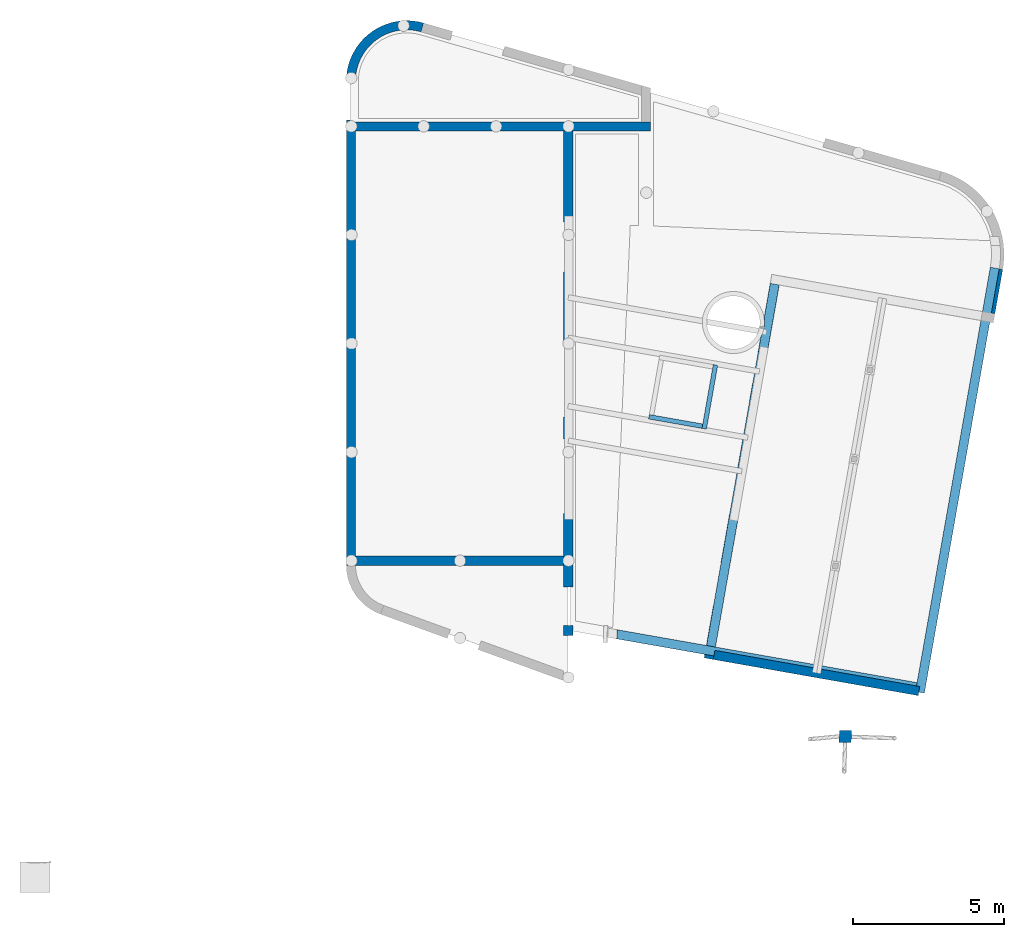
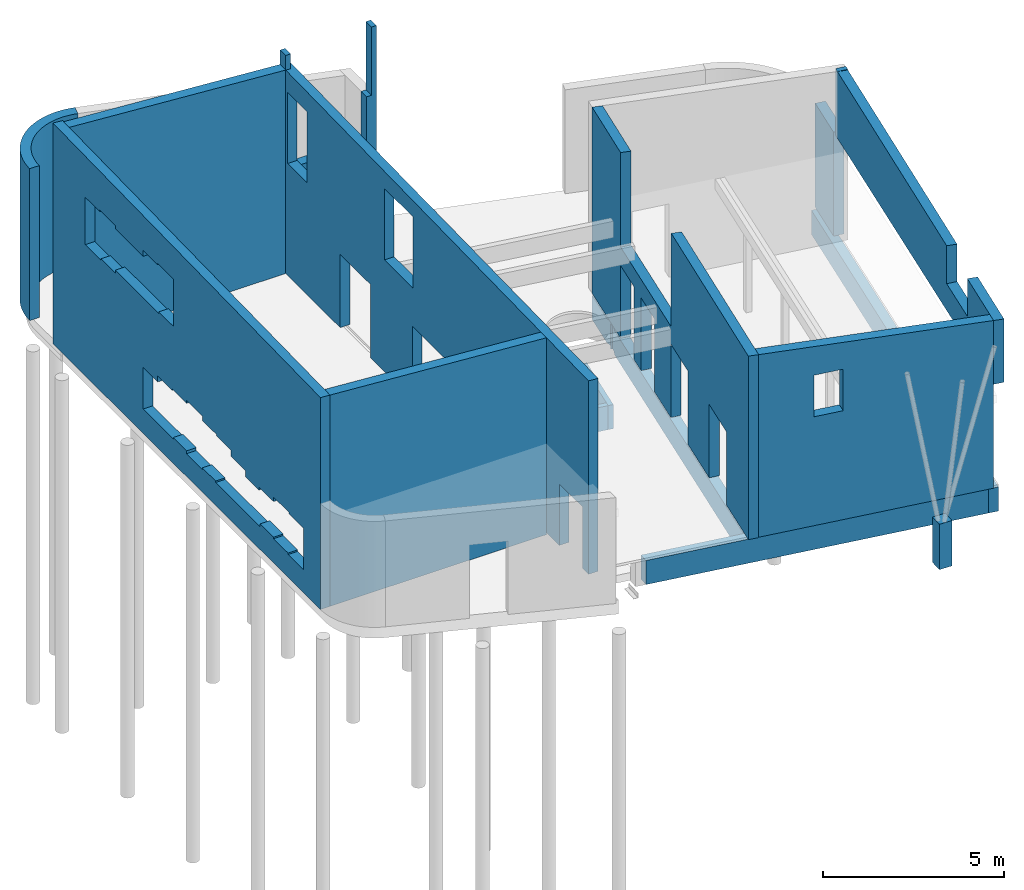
# One storey, part 2 of 3: 14 walls, 19 openings.
"""IFC2X3 building model written with IfcOpenShell, lengths in millimetres."""

from ifc_helpers import new_model, entity, si_unit, converted_unit, derived_unit, direction, frame, frame_2d, origin, place, context, subcontext, project, spatial, polyline, circle_curve, parameter, trimmed, segment, composite_curve, rectangle, outline, extrude, clip, bounded_halfspace, material, layer, layer_set, layer_usage, type_object, element, save


model = new_model("IFC2X3")

# Units and contexts
model_context = context("Model", 3, precision=0.01, world=origin(), true_north=direction((6.12303176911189e-17, 1.0)))
context_of_model = context(None, 3, precision=0.01, world=origin(), true_north=direction((6.12303176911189e-17, 1.0)))
body_context = subcontext(model_context, "Body", "Model", "MODEL_VIEW")
ifc_project = project(units=[si_unit("LENGTHUNIT", "METRE", prefix="MILLI"), si_unit("AREAUNIT", "SQUARE_METRE"), si_unit("VOLUMEUNIT", "CUBIC_METRE"), converted_unit("PLANEANGLEUNIT", "DEGREE", entity("IfcRatioMeasure", 0.0174532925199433), si_unit("PLANEANGLEUNIT", "RADIAN"), dimensions=[0, 0, 0, 0, 0, 0, 0]), si_unit("MASSUNIT", "GRAM", prefix="KILO"), derived_unit("MASSDENSITYUNIT", [(si_unit("MASSUNIT", "GRAM", prefix="KILO"), 1), (si_unit("LENGTHUNIT", "METRE"), -3)]), derived_unit("MOMENTOFINERTIAUNIT", [(si_unit("LENGTHUNIT", "METRE"), 4)]), si_unit("TIMEUNIT", "SECOND"), si_unit("FREQUENCYUNIT", "HERTZ"), si_unit("THERMODYNAMICTEMPERATUREUNIT", "DEGREE_CELSIUS"), derived_unit("THERMALTRANSMITTANCEUNIT", [(si_unit("MASSUNIT", "GRAM", prefix="KILO"), 1), (si_unit("THERMODYNAMICTEMPERATUREUNIT", "KELVIN"), -1), (si_unit("TIMEUNIT", "SECOND"), -3)]), derived_unit("VOLUMETRICFLOWRATEUNIT", [(si_unit("LENGTHUNIT", "METRE"), 3), (si_unit("TIMEUNIT", "SECOND"), -1)]), si_unit("ELECTRICCURRENTUNIT", "AMPERE"), si_unit("ELECTRICVOLTAGEUNIT", "VOLT"), si_unit("POWERUNIT", "WATT"), si_unit("FORCEUNIT", "NEWTON", prefix="KILO"), si_unit("ILLUMINANCEUNIT", "LUX"), si_unit("LUMINOUSFLUXUNIT", "LUMEN"), si_unit("LUMINOUSINTENSITYUNIT", "CANDELA"), derived_unit("USERDEFINED", [(si_unit("MASSUNIT", "GRAM", prefix="KILO"), -1), (si_unit("LENGTHUNIT", "METRE"), -2), (si_unit("TIMEUNIT", "SECOND"), 3), (si_unit("LUMINOUSFLUXUNIT", "LUMEN"), 1)]), derived_unit("LINEARVELOCITYUNIT", [(si_unit("LENGTHUNIT", "METRE"), 1), (si_unit("TIMEUNIT", "SECOND"), -1)]), si_unit("PRESSUREUNIT", "PASCAL"), derived_unit("USERDEFINED", [(si_unit("LENGTHUNIT", "METRE"), -2), (si_unit("MASSUNIT", "GRAM", prefix="KILO"), 1), (si_unit("TIMEUNIT", "SECOND"), -2)]), derived_unit("LINEARFORCEUNIT", [(si_unit("MASSUNIT", "GRAM", prefix="KILO"), 1), (si_unit("LENGTHUNIT", "METRE"), 1), (si_unit("TIMEUNIT", "SECOND"), -2), (si_unit("LENGTHUNIT", "METRE"), -1)]), derived_unit("PLANARFORCEUNIT", [(si_unit("MASSUNIT", "GRAM", prefix="KILO"), 1), (si_unit("LENGTHUNIT", "METRE"), 1), (si_unit("TIMEUNIT", "SECOND"), -2), (si_unit("LENGTHUNIT", "METRE"), -2)])], contexts=[model_context, context_of_model])

# Site, building, storey
site_placement = place(None, origin())
site = spatial("IfcSite", under=ifc_project, at=site_placement, Name="Default", CompositionType="ELEMENT")
building_placement = place(site_placement, origin())
building = spatial("IfcBuilding", under=site, at=building_placement, Name="IFc", CompositionType="ELEMENT")
storey_placement = place(building_placement, frame((0.0, 0.0, -70.0)))
storey = spatial("IfcBuildingStorey", under=building, at=storey_placement, Name="00 begane grond b.k. ruwe vloer", CompositionType="ELEMENT", Elevation=-70.0)

# Wall, opening
ifc_material_1 = material(Name="IMd_underlayment")
ifc_layer_1 = layer(ifc_material_1, 18.0)
ifc_material_2 = material(Name="IMd_hout")
ifc_layer_2 = layer(ifc_material_2, 270.0)
ifc_layer_3 = layer(ifc_material_1, 18.0)
ifc_layer_set_1 = layer_set([ifc_layer_1, ifc_layer_2, ifc_layer_3], Name="Basic Wall:NLRS_28_WA HSB_d=271")
ifc_layer_usage_1 = layer_usage(ifc_layer_set_1, "AXIS2", "NEGATIVE", 153.0)
wall_type_1 = type_object("IfcWallType", Name="Basic Wall:NLRS_28_WA HSB_d=271", PredefinedType="STANDARD", material=ifc_layer_set_1)
wall_1_placement = place(storey_placement, frame((19912.6696056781, 24397.0, 70.0), z_axis=(0.0, 0.0, 1.0), x_axis=(-1.0, 0.0, 0.0)))
wall_1 = element("IfcWallStandardCase", 1, at=wall_1_placement, inside=storey, type_object=wall_type_1, material=ifc_layer_usage_1, Name="Basic Wall:NLRS_28_WA HSB_d=271", ObjectType="Basic Wall:NLRS_28_WA HSB_d=271", context=body_context, shape_type="Clipping", body=[
    clip(extrude(rectangle(XDim=9787.66960567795, YDim=306.0, at=frame_2d((4893.83480283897, -5.25801624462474e-13), x_axis=(-1.0, 0.0))), origin(), (0.0, 0.0, 1.0), 7346.55553547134), bounded_halfspace(frame((2887.66960567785, -153.0, 6861.70889047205), z_axis=(0.0700806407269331, -0.0200951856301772, -0.997338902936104), x_axis=(0.958704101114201, -0.274902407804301, 0.0729048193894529)), True, frame((2887.66960567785, -153.0, 6861.70889047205)), polyline([(0.0, 0.0), (6900.0, 0.0), (6900.0, 306.0), (0.0, 306.0), (0.0, 0.0)]))),
])
opening_1_placement = place(wall_1_placement, origin())
element("IfcOpeningElement", 2, at=opening_1_placement, cuts=wall_1, Name="Basic Wall:NLRS_28_WA HSB_d=271", ObjectType="Opening", context=body_context, shape_type="SweptSolid", body=[
    extrude(outline(polyline([(-1670.11307045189, -4270.0), (911.556535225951, -4270.0), (911.556535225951, 1360.0), (758.556535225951, 1360.0), (758.556535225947, 2910.0), (-1670.1130704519, 2910.0), (-1670.11307045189, -4270.0)])), frame((1064.55653522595, 153.0, 6410.0), z_axis=(0.0, -1.0, 0.0), x_axis=(-1.0, 0.0, 0.0)), (0.0, 0.0, 1.0), 306.0),
])

# Wall, openings
ifc_layer_usage_2 = layer_usage(ifc_layer_set_1, "AXIS2", "NEGATIVE", 153.0)
wall_2_placement = place(storey_placement, frame((17178.0, 5903.98538399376, 70.0), z_axis=(0.0, 0.0, 1.0), x_axis=(0.0, 1.0, 0.0)))
wall_2 = element("IfcWallStandardCase", 3, at=wall_2_placement, inside=storey, type_object=wall_type_1, material=ifc_layer_usage_2, Name="Basic Wall:NLRS_28_WA HSB_d=271", ObjectType="Basic Wall:NLRS_28_WA HSB_d=271", context=body_context, shape_type="Clipping", body=[
    clip(clip(clip(extrude(outline(polyline([(1619.46869295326, -153.0), (18646.0146160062, -153.0), (18646.0146160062, 153.0), (18340.0146160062, 153.0), (4246.01461600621, 153.0), (3940.01461600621, 153.0), (1619.46869295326, 153.0), (1619.46869295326, -153.0)])), origin(), (0.0, 0.0, 1.0), 6861.70889047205), bounded_halfspace(frame((1619.46869295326, -153.0, 6497.14246680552), z_axis=(0.0200951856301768, 0.0700806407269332, -0.997338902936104), x_axis=(0.274902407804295, 0.958704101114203, 0.0729048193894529)), True, frame((1619.46869295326, -153.0, 6497.14246680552)), polyline([(0.0, 0.0), (17026.545923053, 0.0), (17026.545923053, 306.0), (16720.545923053, 306.0), (2626.54592305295, 306.0), (2320.54592305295, 306.0), (0.0, 306.0), (0.0, 0.0)]))), bounded_halfspace(frame((18340.0146160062, 153.0, 3500.0), z_axis=(-1.0, 0.0, 0.0), x_axis=(0.0, -1.0, 0.0)), True, frame((18340.0146160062, 153.0, 3500.0), z_axis=(-1.0, 0.0, 0.0), x_axis=(0.0, -1.0, 0.0)), polyline([(0.0, 0.0), (0.0, -3500.0), (306.0, -3500.0), (306.0, 0.0), (0.0, 0.0)]))), bounded_halfspace(frame((18340.0146160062, -153.0, 3500.0), z_axis=(0.0, 0.0, 1.0), x_axis=(-1.0, 0.0, 0.0)), True, frame((18340.0146160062, -153.0, 3500.0), z_axis=(0.0, 0.0, 1.0), x_axis=(-1.0, 0.0, 0.0)), polyline([(0.0, 0.0), (-306.0, 0.0), (-306.0, -306.0), (0.0, -306.0), (0.0, 0.0)]))),
])
opening_2_placement = place(wall_2_placement, origin())
element("IfcOpeningElement", 4, at=opening_2_placement, cuts=wall_2, Name="Basic Wall:NLRS_28_WA HSB_d=271", ObjectType="Opening", context=body_context, shape_type="SweptSolid", body=[
    extrude(rectangle(XDim=2400.0, YDim=1567.0, at=frame_2d((0.0, 0.0), x_axis=(0.0, 1.0))), frame((12094.6040001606, 153.0, 4970.0), z_axis=(0.0, -1.0, 0.0), x_axis=(-1.0, 0.0, 0.0)), (0.0, 0.0, 1.0), 306.0),
])
opening_3_placement = place(wall_2_placement, origin())
element("IfcOpeningElement", 5, at=opening_3_placement, cuts=wall_2, Name="Basic Wall:NLRS_28_WA HSB_d=271", ObjectType="Opening", context=body_context, shape_type="SweptSolid", body=[
    extrude(rectangle(XDim=2400.00000000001, YDim=1064.0, at=frame_2d((0.0, 0.0), x_axis=(0.0, 1.0))), frame((17702.0146160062, 153.0, 4970.0), z_axis=(0.0, -1.0, 0.0), x_axis=(-1.0, 0.0, 0.0)), (0.0, 0.0, 1.0), 306.0),
])
opening_4_placement = place(wall_2_placement, origin())
element("IfcOpeningElement", 6, at=opening_4_placement, cuts=wall_2, Name="Basic Wall:NLRS_28_WA HSB_d=271", ObjectType="Opening", context=body_context, shape_type="SweptSolid", body=[
    extrude(rectangle(XDim=2070.0, YDim=1280.00000000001, at=frame_2d((0.0, -4.54747350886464e-13), x_axis=(0.0, 1.0))), frame((2584.75540203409, 153.0, 1035.0), z_axis=(0.0, -1.0, 0.0), x_axis=(1.0, 0.0, 0.0)), (0.0, 0.0, 1.0), 306.0),
])
opening_5_placement = place(wall_2_placement, origin())
element("IfcOpeningElement", 7, at=opening_5_placement, cuts=wall_2, Name="Basic Wall:NLRS_28_WA HSB_d=271", ObjectType="Opening", context=body_context, shape_type="SweptSolid", body=[
    extrude(rectangle(XDim=2470.00000000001, YDim=2467.0, at=frame_2d((0.0, 0.0), x_axis=(0.0, 1.0))), frame((6896.01461570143, 153.0, 1235.0), z_axis=(0.0, -1.0, 0.0), x_axis=(1.0, 0.0, 0.0)), (0.0, 0.0, 1.0), 306.0),
])
opening_6_placement = place(wall_2_placement, origin())
element("IfcOpeningElement", 8, at=opening_6_placement, cuts=wall_2, Name="Basic Wall:NLRS_28_WA HSB_d=271", ObjectType="Opening", context=body_context, shape_type="SweptSolid", body=[
    extrude(rectangle(XDim=2470.0, YDim=2467.0, at=frame_2d((0.0, 0.0), x_axis=(0.0, 1.0))), frame((10096.0146157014, 153.0, 1235.0), z_axis=(0.0, -1.0, 0.0), x_axis=(1.0, 0.0, 0.0)), (0.0, 0.0, 1.0), 306.0),
])
opening_7_placement = place(wall_2_placement, origin())
element("IfcOpeningElement", 9, at=opening_7_placement, cuts=wall_2, Name="Basic Wall:NLRS_28_WA HSB_d=271", ObjectType="Opening", context=body_context, shape_type="SweptSolid", body=[
    extrude(rectangle(XDim=2469.99999999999, YDim=1667.00000000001, at=frame_2d((-2.1600499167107e-12, -2.38742359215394e-12), x_axis=(0.0, 1.0))), frame((14496.0146160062, 153.0, 1235.0), z_axis=(0.0, -1.0, 0.0), x_axis=(1.0, 0.0, 0.0)), (0.0, 0.0, 1.0), 306.0),
])
opening_8_placement = place(wall_2_placement, origin())
element("IfcOpeningElement", 10, at=opening_8_placement, cuts=wall_2, Name="Basic Wall:NLRS_28_WA HSB_d=271", ObjectType="Opening", context=body_context, shape_type="SweptSolid", body=[
    extrude(rectangle(XDim=7180.0, YDim=1400.98239480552, at=frame_2d((2.72848410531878e-12, 1.81898940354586e-12), x_axis=(0.0, 1.0))), frame((918.977495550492, 153.0, 7090.0), z_axis=(0.0, -1.0, 0.0), x_axis=(-1.0, 0.0, 0.0)), (0.0, 0.0, 1.0), 306.0),
])
opening_9_placement = place(wall_2_placement, origin())
element("IfcOpeningElement", 11, at=opening_9_placement, cuts=wall_2, Name="Basic Wall:NLRS_28_WA HSB_d=271", ObjectType="Opening", context=body_context, shape_type="SweptSolid", body=[
    extrude(rectangle(XDim=2070.0, YDim=1199.26721811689, at=frame_2d((0.0, 4.54747350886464e-13), x_axis=(0.0, 1.0))), frame((1007.61038852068, 153.0, 1035.0), z_axis=(0.0, -1.0, 0.0), x_axis=(1.0, 0.0, 0.0)), (0.0, 0.0, 1.0), 306.0),
])

# Wall
ifc_layer_usage_3 = layer_usage(ifc_layer_set_1, "AXIS2", "NEGATIVE", 153.0)
wall_3_placement = place(storey_placement, frame((17025.0, 9997.0, 0.0), z_axis=(0.0, 0.0, 1.0), x_axis=(-1.0, 0.0, 0.0)))
element("IfcWallStandardCase", 12, at=wall_3_placement, inside=storey, type_object=wall_type_1, material=ifc_layer_usage_3, Name="Basic Wall:NLRS_28_WA HSB_d=271", ObjectType="Basic Wall:NLRS_28_WA HSB_d=271", context=body_context, shape_type="Clipping", body=[
    clip(extrude(rectangle(XDim=6899.99999999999, YDim=306.0, at=frame_2d((3449.99999999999, 1.70530256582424e-13), x_axis=(-1.0, 0.0))), origin(), (0.0, 0.0, 1.0), 7126.41276432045), bounded_halfspace(frame((0.0, -153.0, 6641.56611932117), z_axis=(0.0700806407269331, -0.0200951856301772, -0.997338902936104), x_axis=(0.958704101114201, -0.274902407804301, 0.0729048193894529)), True, frame((0.0, -153.0, 6641.56611932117)), polyline([(0.0, 0.0), (6900.0, 0.0), (6900.0, 306.0), (0.0, 306.0), (0.0, 0.0)]))),
])

# Wall, openings
ifc_layer_usage_4 = layer_usage(ifc_layer_set_1, "AXIS2", "NEGATIVE", 153.0)
wall_4_placement = place(storey_placement, frame((9972.0, 25897.4538590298, 0.0), z_axis=(0.0, 0.0, 1.0), x_axis=(0.0, -1.0, 0.0)))
wall_4 = element("IfcWallStandardCase", 13, at=wall_4_placement, inside=storey, type_object=wall_type_1, material=ifc_layer_usage_4, Name="Basic Wall:NLRS_28_WA HSB_d=271", ObjectType="Basic Wall:NLRS_28_WA HSB_d=271", context=body_context, shape_type="Clipping", body=[
    clip(extrude(outline(polyline([(1286.08411395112, -153.0), (16053.8255288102, -153.0), (16053.4538590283, 153.0), (15747.4538590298, 153.0), (1653.45385902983, 153.0), (1347.45385902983, 153.0), (1286.08411395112, 153.0), (1286.08411395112, -153.0)])), origin(), (0.0, 0.0, 1.0), 7439.29395710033), bounded_halfspace(frame((1286.08411395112, -153.0, 7439.29395710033), z_axis=(-0.0200951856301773, -0.0700806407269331, -0.997338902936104), x_axis=(-0.274902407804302, -0.958704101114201, 0.0729048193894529)), True, frame((1286.08411395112, -153.0, 7439.29395710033)), polyline([(0.0, 0.0), (14767.7414148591, 0.0), (14767.3697450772, 306.0), (14461.3697450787, 306.0), (367.369745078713, 306.0), (61.3697450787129, 306.0), (0.0, 306.0), (0.0, 0.0)]))),
])
opening_10_placement = place(wall_4_placement, origin())
element("IfcOpeningElement", 14, at=opening_10_placement, cuts=wall_4, Name="Basic Wall:NLRS_28_WA HSB_d=271", ObjectType="Opening", context=body_context, shape_type="SweptSolid", body=[
    extrude(outline(polyline([(-2434.15789473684, -928.947368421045), (-1571.15789473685, -928.947368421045), (-1571.15789473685, -878.947368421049), (-771.157894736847, -878.947368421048), (-771.157894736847, -778.947368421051), (1584.84210526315, -778.947368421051), (1628.84210526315, -778.947368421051), (1628.84210526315, -728.947368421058), (2428.84210526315, -728.947368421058), (2428.84210526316, 871.05263157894), (1565.84210526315, 871.052631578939), (1565.84210526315, 821.052631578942), (765.842105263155, 821.052631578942), (765.842105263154, 621.052631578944), (-771.157894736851, 621.052631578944), (-771.157894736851, 721.052631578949), (-1634.15789473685, 721.052631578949), (-1634.15789473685, 671.052631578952), (-2434.15789473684, 671.052631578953), (-2434.15789473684, -928.947368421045)])), frame((5500.11175376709, 153.0, 5348.94736842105), z_axis=(0.0, -1.0, 0.0), x_axis=(1.0, 0.0, 0.0)), (0.0, 0.0, 1.0), 306.0),
])
opening_11_placement = place(wall_4_placement, origin())
element("IfcOpeningElement", 15, at=opening_11_placement, cuts=wall_4, Name="Basic Wall:NLRS_28_WA HSB_d=271", ObjectType="Opening", context=body_context, shape_type="SweptSolid", body=[
    extrude(outline(polyline([(-842.105263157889, -2872.10526315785), (-842.105263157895, -4535.10526315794), (557.894736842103, -4535.10526315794), (557.894736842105, -3735.10526315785), (757.894736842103, -3735.10526315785), (757.894736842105, -2935.10526315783), (807.894736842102, -2935.10526315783), (807.894736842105, -2135.10526315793), (907.894736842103, -2135.10526315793), (907.894736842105, -1272.10526315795), (757.894736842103, -1272.10526315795), (757.894736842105, -472.105263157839), (707.894736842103, -472.105263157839), (707.894736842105, 327.894736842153), (507.894736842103, 327.894736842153), (507.894736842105, 1127.89473684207), (307.894736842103, 1127.89473684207), (307.894736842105, 1864.89473684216), (407.894736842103, 1864.89473684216), (407.894736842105, 2664.89473684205), (557.894736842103, 2664.89473684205), (557.894736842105, 3527.89473684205), (507.894736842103, 3527.89473684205), (507.894736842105, 4327.89473684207), (-892.105263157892, 4327.89473684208), (-892.105263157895, 3464.89473684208), (-842.105263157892, 3464.89473684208), (-842.105263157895, 2664.89473684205), (-792.105263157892, 2664.89473684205), (-792.105263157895, 1927.89473684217), (-892.105263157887, 1927.89473684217), (-892.105263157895, -535.105263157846), (-842.105263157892, -535.105263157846), (-842.105263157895, -1272.10526315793), (-892.105263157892, -1272.10526315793), (-892.105263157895, -2135.10526315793), (-792.105263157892, -2135.10526315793), (-792.105263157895, -2872.10526315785), (-842.105263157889, -2872.10526315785)])), frame((10801.0591221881, 153.0, 1662.1052631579), z_axis=(0.0, 1.0, 0.0), x_axis=(0.0, 0.0, 1.0)), (0.0, 0.0, -1.0), 306.0),
])
opening_12_placement = place(wall_4_placement, origin())
element("IfcOpeningElement", 16, at=opening_12_placement, cuts=wall_4, Name="Basic Wall:NLRS_28_WA HSB_d=271", ObjectType="Opening", context=body_context, shape_type="SweptSolid", body=[
    extrude(rectangle(XDim=5630.0, YDim=1285.91700239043, at=frame_2d((2.1600499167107e-12, 1.59161572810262e-12), x_axis=(0.0, 1.0))), frame((643.125612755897, 153.0, 7935.0), z_axis=(0.0, -1.0, 0.0), x_axis=(-1.0, 0.0, 0.0)), (0.0, 0.0, 1.0), 306.0),
])

# Wall
ifc_layer_usage_5 = layer_usage(ifc_layer_set_1, "AXIS2", "POSITIVE", -153.0)
wall_5_placement = place(storey_placement, frame((9971.99964898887, 25897.1261254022, 0.0)))
element("IfcWallStandardCase", 17, at=wall_5_placement, inside=storey, type_object=wall_type_1, material=ifc_layer_usage_5, Name="Basic Wall:NLRS_28_WA HSB_d=271", ObjectType="Basic Wall:NLRS_28_WA HSB_d=271", context=body_context, shape_type="SweptSolid", body=[
    extrude(outline(composite_curve([segment(trimmed(circle_curve(frame_2d((1856.07848287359, -3.97582175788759), x_axis=(1.0, 0.0)), 2009.08274108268), [parameter(73.9929851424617)], [parameter(179.877269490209)], True, "PARAMETER"), True, "CONTINUOUS"), segment(polyline([(-152.999648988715, 0.327733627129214), (153.000351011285, -0.013531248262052)]), True, "CONTINUOUS"), segment(trimmed(circle_curve(frame_2d((1856.07848287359, -3.97582175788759), x_axis=(1.0, 0.0)), 1703.08274108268), [parameter(73.9929851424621)], [parameter(179.866698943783)], True, "PARAMETER"), False, "CONTINUOUS"), segment(polyline([(2325.71213786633, 1633.07489617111), (2410.09318111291, 1927.21064636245)]), True, "CONTINUOUS")], self_intersect=False)), origin(), (0.0, 0.0, 1.0), 5120.0),
])

# Wall, openings
ifc_layer_usage_6 = layer_usage(ifc_layer_set_1, "AXIS2", "NEGATIVE", 153.0)
wall_6_placement = place(storey_placement, frame((24025.4009590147, 19161.6606302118, 60.0), z_axis=(0.0, 0.0, 1.0), x_axis=(-0.173648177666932, -0.984807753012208, 0.0)))
wall_6 = element("IfcWallStandardCase", 18, at=wall_6_placement, inside=storey, type_object=wall_type_1, material=ifc_layer_usage_6, Name="Basic Wall:NLRS_28_WA HSB_d=271", ObjectType="Basic Wall:NLRS_28_WA HSB_d=271", context=body_context, shape_type="Clipping", body=[
    clip(clip(extrude(rectangle(XDim=12606.0, YDim=306.000000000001, at=frame_2d((6303.0, -1.08002495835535e-12), x_axis=(-1.0, 0.0))), origin(), (0.0, 0.0, 1.0), 6282.36164978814), bounded_halfspace(frame((6384.0, -153.0, 6233.58244995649), z_axis=(-0.00762051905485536, -0.0725054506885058, -0.997338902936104), x_axis=(-0.104248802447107, -0.991875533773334, 0.0729048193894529)), True, frame((6384.0, -153.0, 6233.58244995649)), polyline([(0.0, 0.0), (6222.0, 0.0), (6222.0, 306.0), (5916.0, 306.0), (0.0, 306.0), (0.0, 0.0)]))), bounded_halfspace(frame((0.0, -153.0, 6282.36164978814), z_axis=(-0.00762051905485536, -0.0725054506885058, -0.997338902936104), x_axis=(-0.104248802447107, -0.991875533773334, 0.0729048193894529)), True, frame((0.0, -153.0, 6282.36164978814)), polyline([(0.0, 0.0), (2300.0, 0.0), (2300.0, 306.0), (0.0, 306.0), (0.0, 0.0)]))),
])
opening_13_placement = place(wall_6_placement, origin())
element("IfcOpeningElement", 19, at=opening_13_placement, cuts=wall_6, Name="Basic Wall:NLRS_28_WA HSB_d=271", ObjectType="Opening", context=body_context, shape_type="SweptSolid", body=[
    extrude(rectangle(XDim=2457.0, YDim=1084.0, at=frame_2d((0.0, 0.0), x_axis=(0.0, 1.0))), frame((4492.0, 153.0, 1228.5), z_axis=(0.0, -1.0, 0.0), x_axis=(1.0, 0.0, 0.0)), (0.0, 0.0, 1.0), 306.0),
])
opening_14_placement = place(wall_6_placement, origin())
element("IfcOpeningElement", 20, at=opening_14_placement, cuts=wall_6, Name="Basic Wall:NLRS_28_WA HSB_d=271", ObjectType="Opening", context=body_context, shape_type="SweptSolid", body=[
    extrude(outline(polyline([(-3020.60000000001, -996.0), (3082.40000000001, -996.0), (3082.40000000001, -986.0), (1479.4, -986.0), (1479.4, 1484.0), (79.399999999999, 1484.0), (79.3999999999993, -986.0), (-1620.6, -986.0), (-1620.6, 1484.0), (-3020.60000000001, 1484.0), (-3020.60000000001, -996.0)])), frame((9370.6, 153.0, 996.0), z_axis=(0.0, -1.0, 0.0), x_axis=(1.0, 0.0, 0.0)), (0.0, 0.0, 1.0), 306.0),
])
opening_15_placement = place(wall_6_placement, origin())
element("IfcOpeningElement", 21, at=opening_15_placement, cuts=wall_6, Name="Basic Wall:NLRS_28_WA HSB_d=271", ObjectType="Opening", context=body_context, shape_type="SweptSolid", body=[
    extrude(rectangle(XDim=7609.99999999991, YDim=4083.99999999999, at=frame_2d((4.32009983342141e-12, -1.13686837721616e-12), x_axis=(0.0, 1.0))), frame((4342.0, 153.0, 6885.0), z_axis=(0.0, -1.0, 0.0), x_axis=(-1.0, 0.0, 0.0)), (0.0, 0.0, 1.0), 306.0),
])
opening_16_placement = place(wall_6_placement, origin())
element("IfcOpeningElement", 22, at=opening_16_placement, cuts=wall_6, Name="Basic Wall:NLRS_28_WA HSB_d=271", ObjectType="Opening", context=body_context, shape_type="SweptSolid", body=[
    extrude(outline(polyline([(812.333333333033, -2002.0), (822.333333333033, -2002.0), (822.333333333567, 1543.0), (-1634.66666666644, 1543.0), (-1634.6666666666, 459.0), (812.333333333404, 459.0), (812.333333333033, -2002.0)])), frame((1849.0, 153.0, 822.333333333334), z_axis=(0.0, -1.0, 0.0), x_axis=(0.0, 0.0, -1.0)), (0.0, 0.0, 1.0), 306.0),
])

# Wall, opening
ifc_layer_usage_7 = layer_usage(ifc_layer_set_1, "AXIS2", "NEGATIVE", 153.0)
wall_7_placement = place(storey_placement, frame((28808.8142595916, 5673.10820762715, 70.0), z_axis=(0.0, 0.0, 1.0), x_axis=(-0.984807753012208, 0.173648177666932, 0.0)))
wall_7 = element("IfcWallStandardCase", 23, at=wall_7_placement, inside=storey, type_object=wall_type_1, material=ifc_layer_usage_7, Name="Basic Wall:NLRS_28_WA HSB_d=271", ObjectType="Basic Wall:NLRS_28_WA HSB_d=271", context=body_context, shape_type="Clipping", body=[
    clip(extrude(rectangle(XDim=6900.00505181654, YDim=306.0, at=frame_2d((3450.00252590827, -4.68958205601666e-13), x_axis=(-1.0, 0.0))), origin(), (0.0, 0.0, 1.0), 6156.13330258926), bounded_halfspace(frame((0.0101037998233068, -153.0, 5654.51119401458), z_axis=(0.0725054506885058, -0.00762051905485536, -0.997338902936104), x_axis=(0.991875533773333, -0.104248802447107, 0.0729048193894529)), True, frame((0.0101037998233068, -153.0, 5654.51119401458)), polyline([(0.0, 0.0), (6899.99494801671, 0.0), (6899.99494801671, 306.0), (-0.0101037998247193, 306.0), (0.0, 0.0)]))),
])
opening_17_placement = place(wall_7_placement, origin())
element("IfcOpeningElement", 24, at=opening_17_placement, cuts=wall_7, Name="Basic Wall:NLRS_28_WA HSB_d=271", ObjectType="Opening", context=body_context, shape_type="SweptSolid", body=[
    extrude(rectangle(XDim=1400.0, YDim=863.000000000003, at=frame_2d((2.8421709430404e-13, 2.21689333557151e-12), x_axis=(1.0, 0.0))), frame((4850.00505181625, 153.0, 4370.0), z_axis=(0.0, -1.0, 0.0), x_axis=(0.0, 0.0, -1.0)), (0.0, 0.0, 1.0), 306.0),
])

# Wall, openings
ifc_layer_usage_8 = layer_usage(ifc_layer_set_1, "AXIS2", "NEGATIVE", 153.0)
wall_8_placement = place(storey_placement, frame((31433.2418591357, 19678.6232738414, 70.0), z_axis=(0.0, 0.0, 1.0), x_axis=(-0.173615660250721, -0.984813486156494, 0.0)))
wall_8 = element("IfcWallStandardCase", 25, at=wall_8_placement, inside=storey, type_object=wall_type_1, material=ifc_layer_usage_8, Name="Basic Wall:NLRS_28_WA HSB_d=271", ObjectType="Basic Wall:NLRS_28_WA HSB_d=271", context=body_context, shape_type="Clipping", body=[
    clip(clip(clip(extrude(rectangle(XDim=14401.4719519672, YDim=305.999999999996, at=frame_2d((7200.73597598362, 1.46371803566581e-12), x_axis=(-1.0, 0.0))), origin(), (0.0, 0.0, 1.0), 5748.52320032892), bounded_halfspace(frame((12276.9780862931, -153.0, 5668.41032464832), z_axis=(-0.00762291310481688, -0.0725051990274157, -0.997338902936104), x_axis=(-0.104281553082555, -0.991872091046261, 0.0729048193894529)), True, frame((12276.9780862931, -153.0, 5668.41032464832)), polyline([(0.0, 0.0), (1818.48376170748, 0.0), (2124.4837618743, 0.0), (2124.49386567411, 306.0), (-0.000196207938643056, 306.0), (0.0, 0.0)]))), bounded_halfspace(frame((1795.46184129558, -153.0, 5748.52320032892), z_axis=(-0.00762291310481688, -0.0725051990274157, -0.997338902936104), x_axis=(-0.104281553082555, -0.991872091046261, 0.0729048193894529)), True, frame((1795.46184129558, -153.0, 5748.52320032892)), polyline([(0.0, 0.0), (8818.48990496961, 0.0), (8818.48990496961, 306.0), (0.0101037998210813, 306.0), (0.0, 0.0)]))), bounded_halfspace(frame((1489.46184112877, -153.0, 3500.0), z_axis=(-1.0, 3.30189536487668e-05, 0.0), x_axis=(-3.30189536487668e-05, -1.0, 0.0)), True, frame((1489.46184112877, -153.0, 3500.0), z_axis=(-1.0, 3.30189536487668e-05, 0.0), x_axis=(-3.30189536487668e-05, -1.0, 0.0)), polyline([(0.0, 0.0), (-306.0, 0.0), (-306.0, -3500.0), (0.0, -3500.0), (0.0, 0.0)]))),
])
opening_18_placement = place(wall_8_placement, origin())
element("IfcOpeningElement", 26, at=opening_18_placement, cuts=wall_8, Name="Basic Wall:NLRS_28_WA HSB_d=271", ObjectType="Opening", context=body_context, shape_type="SweptSolid", body=[
    extrude(outline(polyline([(-831.549118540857, -3140.0), (831.521423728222, -3140.0), (831.521423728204, 3140.0), (-831.493728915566, 3140.0), (-831.549118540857, -3140.0)])), frame((11445.4731699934, 153.0, 7540.0), z_axis=(0.0, -1.0, 0.0), x_axis=(-1.0, 0.0, 0.0)), (0.0, 0.0, 1.0), 306.0),
])
opening_19_placement = place(wall_8_placement, origin())
element("IfcOpeningElement", 27, at=opening_19_placement, cuts=wall_8, Name="Basic Wall:NLRS_28_WA HSB_d=271", ObjectType="Opening", context=body_context, shape_type="SweptSolid", body=[
    extrude(rectangle(XDim=7180.0, YDim=1642.46689311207, at=frame_2d((2.55795384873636e-12, 1.81898940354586e-12), x_axis=(0.0, 1.0))), frame((821.233446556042, 153.0, 7090.0), z_axis=(0.0, -1.0, 0.0), x_axis=(-1.0, 0.0, 0.0)), (0.0, 0.0, 1.0), 306.0),
])

# Walls
ifc_material_3 = material(Name="IMd_beton_prefab")
ifc_layer_4 = layer(ifc_material_3, 300.0)
ifc_layer_set_2 = layer_set([ifc_layer_4], Name="Basic Wall:NLRS_16_WA Funderingsbalk_beton_prefab_300x810")
ifc_layer_usage_9 = layer_usage(ifc_layer_set_2, "AXIS2", "NEGATIVE", 150.0)
wall_type_2 = type_object("IfcWallType", Name="Basic Wall:NLRS_16_WA Funderingsbalk_beton_prefab_300x810", PredefinedType="STANDARD", material=ifc_layer_set_2)
wall_9_placement = place(storey_placement, frame((31320.0072792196, 19698.6966853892, -820.0), z_axis=(0.0, 0.0, 1.0), x_axis=(-0.173615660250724, -0.984813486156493, 0.0)))
element("IfcWallStandardCase", 28, at=wall_9_placement, inside=storey, type_object=wall_type_2, material=ifc_layer_usage_9, Name="Basic Wall:NLRS_16_WA Funderingsbalk_beton_prefab_300x810", ObjectType="Basic Wall:NLRS_16_WA Funderingsbalk_beton_prefab_300x810", context=body_context, shape_type="SweptSolid", body=[
    extrude(rectangle(XDim=14283.5773257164, YDim=299.999999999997, at=frame_2d((7141.78866285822, -7.53175299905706e-13), x_axis=(-1.0, 0.0))), origin(), (0.0, 0.0, 1.0), 810.0),
])
ifc_layer_usage_10 = layer_usage(ifc_layer_set_2, "AXIS2", "NEGATIVE", 150.0)
wall_10_placement = place(storey_placement, frame((28718.4814945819, 5805.81037170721, -820.0), z_axis=(0.0, 0.0, 1.0), x_axis=(-0.984807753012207, 0.173648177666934, 0.0)))
element("IfcWallStandardCase", 29, at=wall_10_placement, inside=storey, type_object=wall_type_2, material=ifc_layer_usage_10, Name="Basic Wall:NLRS_16_WA Funderingsbalk_beton_prefab_300x810", ObjectType="Basic Wall:NLRS_16_WA Funderingsbalk_beton_prefab_300x810", context=body_context, shape_type="SweptSolid", body=[
    extrude(outline(polyline([(10099.1541812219, -150.0), (10059.6746570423, 150.0), (0.0, 150.0), (0.00990568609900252, -150.0), (6787.99454638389, -150.0), (7087.99455528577, -150.0), (10099.1541812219, -150.0)])), origin(), (0.0, 0.0, 1.0), 810.0),
])
ifc_layer_usage_11 = layer_usage(ifc_layer_set_2, "AXIS2", "NEGATIVE", 150.0)
wall_11_placement = place(storey_placement, frame((21911.9315606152, 7158.26565717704, -820.0), z_axis=(0.0, 0.0, 1.0), x_axis=(0.173408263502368, 0.984850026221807, 0.0)))
element("IfcWallStandardCase", 30, at=wall_11_placement, inside=storey, type_object=wall_type_2, material=ifc_layer_usage_11, Name="Basic Wall:NLRS_16_WA Funderingsbalk_beton_prefab_300x810", ObjectType="Basic Wall:NLRS_16_WA Funderingsbalk_beton_prefab_300x810", context=body_context, shape_type="SweptSolid", body=[
    extrude(outline(composite_curve([segment(polyline([(-230.159312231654, -3332.02780846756), (69.8406877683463, -3332.02780846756)]), True, "CONTINUOUS"), segment(polyline([(69.8406877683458, -3332.02780846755), (69.8406877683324, -2157.97082453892)]), True, "CONTINUOUS"), segment(trimmed(circle_curve(frame_2d((1050.33259918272, -1842.47817541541), x_axis=(-0.984814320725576, -0.17361092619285)), 1030.0), [parameter(351.381713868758)], [parameter(7.83877263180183)], True, "PARAMETER"), False, "CONTINUOUS"), segment(polyline([(20.6311468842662, -1867.27573849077), (69.8406877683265, -1866.66574089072)]), True, "CONTINUOUS"), segment(polyline([(69.8406877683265, -1866.66574089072), (69.8406877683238, -1817.81274424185)]), True, "CONTINUOUS"), segment(polyline([(69.840687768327, -1817.81274424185), (20.6433509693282, -1817.1789241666)]), True, "CONTINUOUS"), segment(trimmed(circle_curve(frame_2d((1050.33259918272, -1842.47817541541), x_axis=(-0.984814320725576, -0.17361092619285)), 1030.0), [parameter(332.165561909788)], [parameter(348.594705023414)], True, "PARAMETER"), False, "CONTINUOUS"), segment(polyline([(69.8406877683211, -1526.98552629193), (69.8406877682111, 8858.93601627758)]), True, "CONTINUOUS"), segment(polyline([(69.8406877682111, 8858.93601627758), (-230.159312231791, 8859.00909927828)]), True, "CONTINUOUS"), segment(polyline([(-230.159312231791, 8859.00909927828), (-230.159312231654, -3332.02780846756)]), True, "CONTINUOUS")], self_intersect=False)), frame((8859.00909927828, 80.1593122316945, 0.0), z_axis=(0.0, 0.0, 1.0), x_axis=(0.0, 1.0, 0.0)), (0.0, 0.0, 1.0), 810.0),
])
ifc_material_4 = material(Name="IMd_beton_IHWG")
ifc_layer_5 = layer(ifc_material_4, 400.0)
ifc_layer_set_3 = layer_set([ifc_layer_5], Name="Basic Wall:NLRS_16_WA Funderingspoer_beton_ihwg_400x400x1530")
ifc_layer_usage_12 = layer_usage(ifc_layer_set_3, "AXIS2", "NEGATIVE", 200.0)
wall_type_3 = type_object("IfcWallType", Name="Basic Wall:NLRS_16_WA Funderingspoer_beton_ihwg_400x400x1530", PredefinedType="STANDARD", material=ifc_layer_set_3)
wall_12_placement = place(storey_placement, frame((26565.5036822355, 4159.81729893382, -820.0), z_axis=(0.0, 0.0, 1.0), x_axis=(-0.999390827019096, 0.0348994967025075, 0.0)))
element("IfcWallStandardCase", 31, at=wall_12_placement, inside=storey, type_object=wall_type_3, material=ifc_layer_usage_12, Name="Basic Wall:NLRS_16_WA Funderingspoer_beton_ihwg_400x400x1530", ObjectType="Basic Wall:NLRS_16_WA Funderingspoer_beton_ihwg_400x400x1530", context=body_context, shape_type="SweptSolid", body=[
    extrude(rectangle(XDim=400.000000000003, YDim=400.0, at=frame_2d((200.000000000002, -4.2632564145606e-14), x_axis=(-1.0, 0.0))), origin(), (0.0, 0.0, 1.0), 1529.99942378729),
])
ifc_layer_6 = layer(ifc_material_3, 150.0)
ifc_layer_set_4 = layer_set([ifc_layer_6], Name="Basic Wall:NLRS_16_WA Funderingsbalk_beton_prefab_150x810")
ifc_layer_usage_13 = layer_usage(ifc_layer_set_4, "AXIS2", "NEGATIVE", 75.0)
wall_type_4 = type_object("IfcWallType", Name="Basic Wall:NLRS_16_WA Funderingsbalk_beton_prefab_150x810", PredefinedType="STANDARD", material=ifc_layer_set_4)
wall_13_placement = place(storey_placement, frame((19854.0671839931, 14767.957686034, -820.0), z_axis=(0.0, 0.0, 1.0), x_axis=(0.984807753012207, -0.173648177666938, 0.0)))
element("IfcWallStandardCase", 32, at=wall_13_placement, inside=storey, type_object=wall_type_4, material=ifc_layer_usage_13, Name="Basic Wall:NLRS_16_WA Funderingsbalk_beton_prefab_150x810", ObjectType="Basic Wall:NLRS_16_WA Funderingsbalk_beton_prefab_150x810", context=body_context, shape_type="SweptSolid", body=[
    extrude(rectangle(XDim=1799.94683873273, YDim=150.000000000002, at=frame_2d((899.973419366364, 1.48503431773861e-12), x_axis=(-1.0, 0.0))), origin(), (0.0, 0.0, 1.0), 810.0),
])
ifc_layer_usage_14 = layer_usage(ifc_layer_set_4, "AXIS2", "NEGATIVE", 75.0)
wall_14_placement = place(storey_placement, frame((22060.8493359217, 16485.852671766, -820.0), z_axis=(0.0, 0.0, 1.0), x_axis=(-0.173648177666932, -0.984807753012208, 0.0)))
element("IfcWallStandardCase", 33, at=wall_14_placement, inside=storey, type_object=wall_type_4, material=ifc_layer_usage_14, Name="Basic Wall:NLRS_16_WA Funderingsbalk_beton_prefab_150x810", ObjectType="Basic Wall:NLRS_16_WA Funderingsbalk_beton_prefab_150x810", context=body_context, shape_type="SweptSolid", body=[
    extrude(rectangle(XDim=2150.0, YDim=149.999999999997, at=frame_2d((1075.0, 5.04485342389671e-13), x_axis=(-1.0, 0.0))), origin(), (0.0, 0.0, 1.0), 810.0),
])

save(model, "model.ifc")
